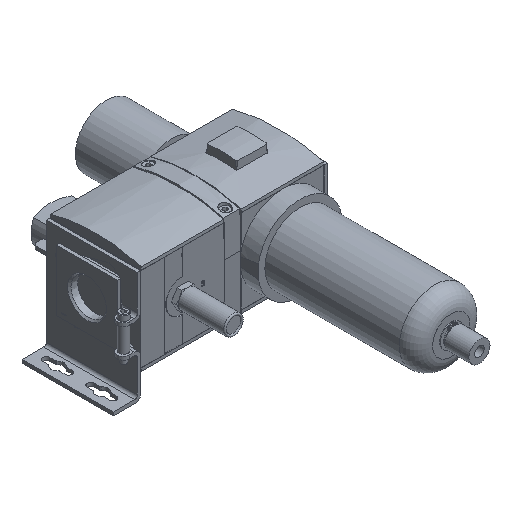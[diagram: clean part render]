
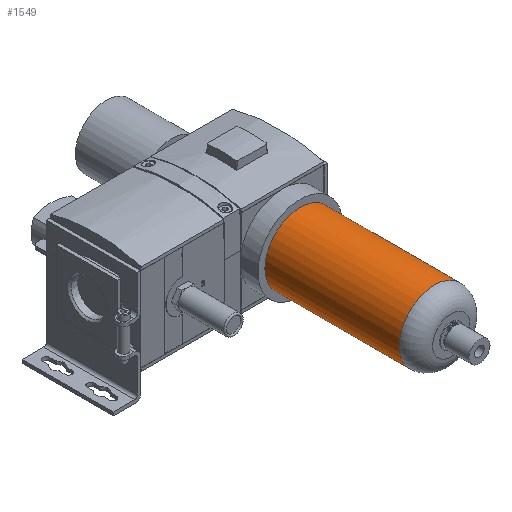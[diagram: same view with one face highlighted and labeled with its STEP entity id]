
A CAD part, isometric view. The second image highlights one B-rep face of the part: STEP entity #1549.
In plain terms, the highlighted cylindrical face has radius 31.75 mm (diameter 63.5 mm), a full revolution.
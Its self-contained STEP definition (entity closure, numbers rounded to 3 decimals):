
#1549 = ADVANCED_FACE( '', ( #3842, #3843 ), #3844, .T. );
#3842 = FACE_OUTER_BOUND( '', #7201, .T. );
#3843 = FACE_OUTER_BOUND( '', #7202, .T. );
#3844 = CYLINDRICAL_SURFACE( '', #7203, 31.75 );
#7201 = EDGE_LOOP( '', ( #10998 ) );
#7202 = EDGE_LOOP( '', ( #10999 ) );
#7203 = AXIS2_PLACEMENT_3D( '', #11000, #11001, #11002 );
#10998 = ORIENTED_EDGE( '', *, *, #19693, .F. );
#10999 = ORIENTED_EDGE( '', *, *, #19694, .T. );
#11000 = CARTESIAN_POINT( '', ( 0., -136.7, 0. ) );
#11001 = DIRECTION( '', ( 0., 1., 0. ) );
#11002 = DIRECTION( '', ( 0., 0., -1. ) );
#19693 = EDGE_CURVE( '', #23495, #23495, #23496, .T. );
#19694 = EDGE_CURVE( '', #23497, #23497, #23498, .T. );
#23495 = VERTEX_POINT( '', #28856 );
#23496 = CIRCLE( '', #28857, 31.75 );
#23497 = VERTEX_POINT( '', #28858 );
#23498 = CIRCLE( '', #28859, 31.75 );
#28856 = CARTESIAN_POINT( '', ( 0., -121.1, -31.75 ) );
#28857 = AXIS2_PLACEMENT_3D( '', #35573, #35574, #35575 );
#28858 = CARTESIAN_POINT( '', ( 0., 0., -31.75 ) );
#28859 = AXIS2_PLACEMENT_3D( '', #35576, #35577, #35578 );
#35573 = CARTESIAN_POINT( '', ( 0., -121.1, 0. ) );
#35574 = DIRECTION( '', ( 0., -1., 0. ) );
#35575 = DIRECTION( '', ( 0., 0., -1. ) );
#35576 = CARTESIAN_POINT( '', ( 0., 0., 0. ) );
#35577 = DIRECTION( '', ( 0., -1., 0. ) );
#35578 = DIRECTION( '', ( 0., 0., -1. ) );
